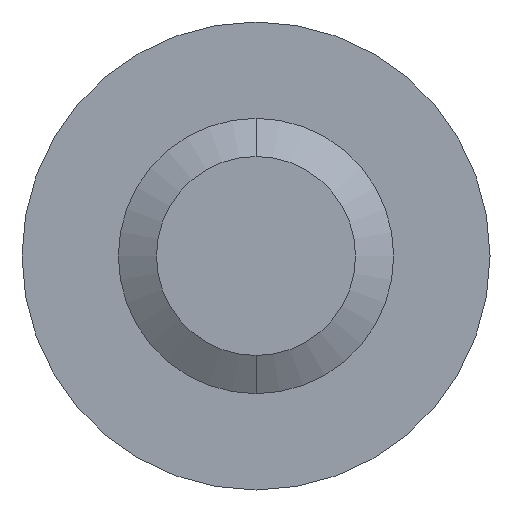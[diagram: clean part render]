
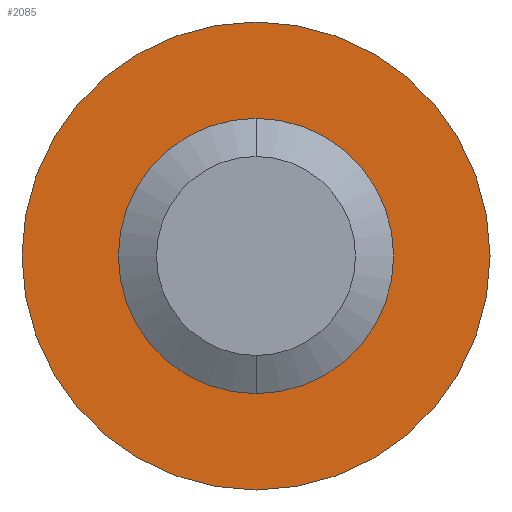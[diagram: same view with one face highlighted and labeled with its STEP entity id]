
A CAD part, front view. The second image highlights one B-rep face of the part: STEP entity #2085.
In plain terms, the highlighted planar face has unit normal (0, -1, 0).
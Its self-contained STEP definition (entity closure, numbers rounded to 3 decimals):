
#10 = EDGE_LOOP ( 'NONE', ( #1393, #2719 ) ) ;
#78 = DIRECTION ( 'NONE',  ( 0., 0., 1. ) ) ;
#84 = AXIS2_PLACEMENT_3D ( 'NONE', #3044, #1010, #532 ) ;
#137 = CIRCLE ( 'NONE', #614, 2.5 ) ;
#222 = DIRECTION ( 'NONE',  ( 0., 0., 1. ) ) ;
#269 = CARTESIAN_POINT ( 'NONE',  ( 0., 20., 0. ) ) ;
#280 = CARTESIAN_POINT ( 'NONE',  ( 0., 20., -2.5 ) ) ;
#465 = FACE_OUTER_BOUND ( 'NONE', #2389, .T. ) ;
#481 = EDGE_CURVE ( 'NONE', #515, #518, #1897, .T. ) ;
#490 = DIRECTION ( 'NONE',  ( 0., 0., 1. ) ) ;
#515 = VERTEX_POINT ( 'NONE', #2808 ) ;
#518 = VERTEX_POINT ( 'NONE', #280 ) ;
#532 = DIRECTION ( 'NONE',  ( 0., 0., 1. ) ) ;
#583 = EDGE_CURVE ( 'NONE', #1083, #2341, #1144, .T. ) ;
#614 = AXIS2_PLACEMENT_3D ( 'NONE', #2368, #1081, #1841 ) ;
#826 = CIRCLE ( 'NONE', #2103, 4.25 ) ;
#832 = AXIS2_PLACEMENT_3D ( 'NONE', #2555, #3021, #490 ) ;
#1010 = DIRECTION ( 'NONE',  ( 0., 1., 0. ) ) ;
#1052 = AXIS2_PLACEMENT_3D ( 'NONE', #269, #2495, #222 ) ;
#1081 = DIRECTION ( 'NONE',  ( 0., 1., 0. ) ) ;
#1083 = VERTEX_POINT ( 'NONE', #2651 ) ;
#1144 = CIRCLE ( 'NONE', #1052, 4.25 ) ;
#1182 = CARTESIAN_POINT ( 'NONE',  ( 0., 20., 4.25 ) ) ;
#1393 = ORIENTED_EDGE ( 'NONE', *, *, #2671, .T. ) ;
#1427 = ORIENTED_EDGE ( 'NONE', *, *, #2666, .F. ) ;
#1481 = FACE_BOUND ( 'NONE', #10, .T. ) ;
#1841 = DIRECTION ( 'NONE',  ( 0., 0., 1. ) ) ;
#1897 = CIRCLE ( 'NONE', #832, 2.5 ) ;
#2043 = PLANE ( 'NONE',  #84 ) ;
#2085 = ADVANCED_FACE ( 'NONE', ( #465, #1481 ), #2043, .F. ) ;
#2103 = AXIS2_PLACEMENT_3D ( 'NONE', #2107, #2859, #78 ) ;
#2107 = CARTESIAN_POINT ( 'NONE',  ( 0., 20., 0. ) ) ;
#2341 = VERTEX_POINT ( 'NONE', #1182 ) ;
#2368 = CARTESIAN_POINT ( 'NONE',  ( 0., 20., 0. ) ) ;
#2389 = EDGE_LOOP ( 'NONE', ( #3145, #1427 ) ) ;
#2495 = DIRECTION ( 'NONE',  ( 0., 1., 0. ) ) ;
#2555 = CARTESIAN_POINT ( 'NONE',  ( 0., 20., 0. ) ) ;
#2651 = CARTESIAN_POINT ( 'NONE',  ( 0., 20., -4.25 ) ) ;
#2666 = EDGE_CURVE ( 'NONE', #2341, #1083, #826, .T. ) ;
#2671 = EDGE_CURVE ( 'NONE', #518, #515, #137, .T. ) ;
#2719 = ORIENTED_EDGE ( 'NONE', *, *, #481, .T. ) ;
#2808 = CARTESIAN_POINT ( 'NONE',  ( 0., 20., 2.5 ) ) ;
#2859 = DIRECTION ( 'NONE',  ( 0., 1., 0. ) ) ;
#3021 = DIRECTION ( 'NONE',  ( 0., 1., 0. ) ) ;
#3044 = CARTESIAN_POINT ( 'NONE',  ( 0., 20., 0. ) ) ;
#3145 = ORIENTED_EDGE ( 'NONE', *, *, #583, .F. ) ;
